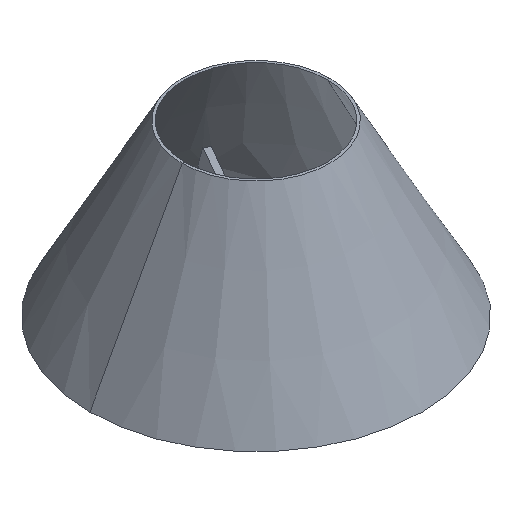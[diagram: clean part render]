
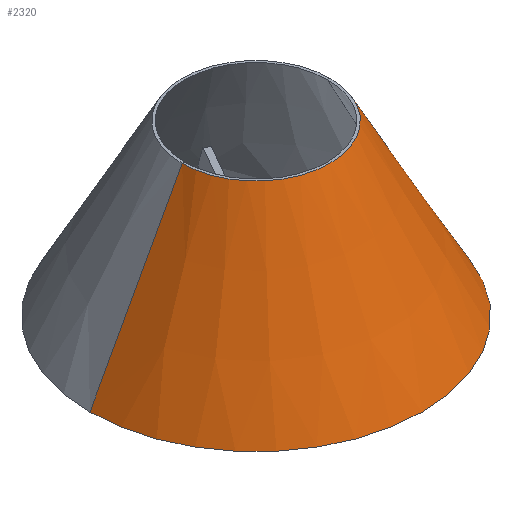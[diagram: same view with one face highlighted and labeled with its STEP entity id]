
A CAD part, isometric view. The second image highlights one B-rep face of the part: STEP entity #2320.
In plain terms, the highlighted conical face has half-angle 28.61 degrees and reference radius 0 mm.
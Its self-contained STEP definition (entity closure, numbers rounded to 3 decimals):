
#117=CARTESIAN_POINT('',(54.0,0.0,175.0));
#118=CARTESIAN_POINT('',(-54.0,0.0,175.0));
#119=CARTESIAN_POINT('',(24.0,0.0,230.0));
#120=CARTESIAN_POINT('',(-24.0,0.0,230.0));
#1170=CARTESIAN_POINT('',(0.0,0.0,175.0));
#1171=DIRECTION('',(0.0,0.0,1.0));
#1172=DIRECTION('',(1.0,0.0,0.0));
#1173=AXIS2_PLACEMENT_3D('',#1170,#1171,#1172);
#1174=CIRCLE('',#1173,54.0);
#1175=TRIMMED_CURVE('',#1174,(#118),(#117),.T.,.CARTESIAN.);
#1182=DIRECTION('',(0.479,0.0,0.878));
#1183=VECTOR('',#1182,1.0);
#1184=LINE('',#118,#1183);
#1191=DIRECTION('',(-0.479,0.0,0.878));
#1192=VECTOR('',#1191,1.0);
#1193=LINE('',#117,#1192);
#1194=CARTESIAN_POINT('',(0.0,0.0,230.0));
#1195=DIRECTION('',(0.0,0.0,1.0));
#1196=DIRECTION('',(1.0,0.0,0.0));
#1197=AXIS2_PLACEMENT_3D('',#1194,#1195,#1196);
#1198=CIRCLE('',#1197,24.0);
#1199=TRIMMED_CURVE('',#1198,(#120),(#119),.T.,.CARTESIAN.);
#1352=CARTESIAN_POINT('',(0.0,0.0,274.0));
#1353=DIRECTION('',(0.0,0.0,-1.0));
#1354=DIRECTION('',(0.0,1.0,0.0));
#1355=AXIS2_PLACEMENT_3D('',#1352,#1353,#1354);
#1356=CONICAL_SURFACE('',#1355,0.0,0.499);
#1493=VERTEX_POINT('',#117);
#1494=VERTEX_POINT('',#118);
#1495=VERTEX_POINT('',#119);
#1496=VERTEX_POINT('',#120);
#1774=EDGE_CURVE('',#1494,#1493,#1175,.T.);
#1776=EDGE_CURVE('',#1494,#1496,#1184,.T.);
#1778=EDGE_CURVE('',#1493,#1495,#1193,.T.);
#1779=EDGE_CURVE('',#1496,#1495,#1199,.T.);
#2137=ORIENTED_EDGE('',*,*,#1774,.T.);
#2138=ORIENTED_EDGE('',*,*,#1778,.T.);
#2139=ORIENTED_EDGE('',*,*,#1779,.F.);
#2140=ORIENTED_EDGE('',*,*,#1776,.F.);
#2254=EDGE_LOOP('',(#2137,#2138,#2139,#2140));
#2288=FACE_OUTER_BOUND('',#2254,.T.);
#2320=ADVANCED_FACE('',(#2288),#1356,.T.);
